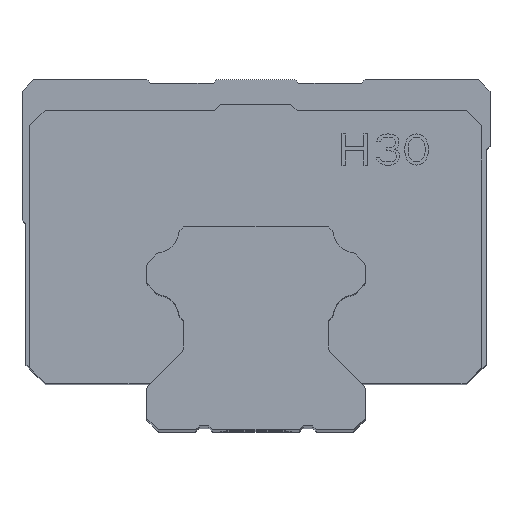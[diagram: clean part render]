
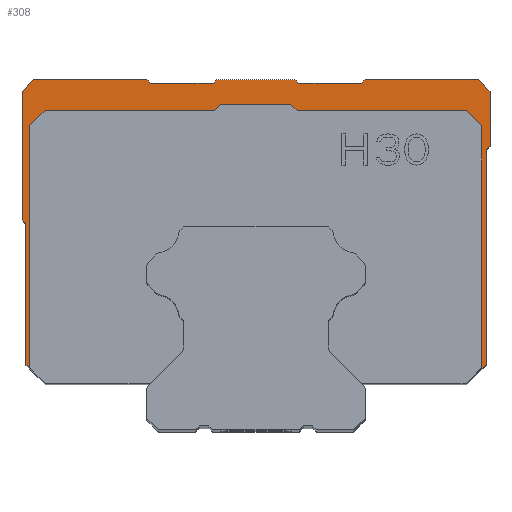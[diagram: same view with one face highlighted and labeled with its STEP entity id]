
A CAD part, top view. The second image highlights one B-rep face of the part: STEP entity #308.
In plain terms, the highlighted planar face has unit normal (0, 0, 1).
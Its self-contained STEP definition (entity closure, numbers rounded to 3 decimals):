
#308=ADVANCED_FACE('',(#776),#526,.T.);
#526=PLANE('',#5538);
#776=FACE_OUTER_BOUND('',#1053,.T.);
#1053=EDGE_LOOP('',(#3242,#3243,#3244,#3245,#3246,#3247,#3248,#3249,#3250,
#3251,#3252,#3253,#3254,#3255,#3256,#3257,#3258,#3259,#3260,#3261,#3262,
#3263,#3264,#3265,#3266,#3267,#3268,#3269,#3270,#3271));
#1496=LINE('',#7808,#2135);
#1553=LINE('',#7961,#2192);
#1557=LINE('',#7969,#2196);
#1558=LINE('',#7971,#2197);
#1559=LINE('',#7973,#2198);
#1560=LINE('',#7975,#2199);
#1561=LINE('',#7977,#2200);
#1562=LINE('',#7979,#2201);
#1563=LINE('',#7981,#2202);
#1564=LINE('',#7983,#2203);
#1565=LINE('',#7985,#2204);
#1566=LINE('',#7987,#2205);
#1567=LINE('',#7989,#2206);
#1568=LINE('',#7991,#2207);
#1569=LINE('',#7993,#2208);
#1570=LINE('',#7995,#2209);
#1571=LINE('',#7997,#2210);
#1572=LINE('',#7999,#2211);
#1573=LINE('',#8001,#2212);
#1574=LINE('',#8003,#2213);
#1575=LINE('',#8005,#2214);
#1576=LINE('',#8006,#2215);
#1577=LINE('',#8008,#2216);
#1578=LINE('',#8010,#2217);
#1579=LINE('',#8012,#2218);
#1580=LINE('',#8014,#2219);
#1581=LINE('',#8016,#2220);
#1582=LINE('',#8018,#2221);
#1583=LINE('',#8020,#2222);
#1584=LINE('',#8022,#2223);
#2135=VECTOR('',#6280,1.);
#2192=VECTOR('',#6451,1.);
#2196=VECTOR('',#6459,1.);
#2197=VECTOR('',#6462,1.);
#2198=VECTOR('',#6463,1.);
#2199=VECTOR('',#6464,1.);
#2200=VECTOR('',#6465,1.);
#2201=VECTOR('',#6466,1.);
#2202=VECTOR('',#6467,1.);
#2203=VECTOR('',#6468,1.);
#2204=VECTOR('',#6469,1.);
#2205=VECTOR('',#6470,1.);
#2206=VECTOR('',#6471,1.);
#2207=VECTOR('',#6472,1.);
#2208=VECTOR('',#6473,1.);
#2209=VECTOR('',#6474,1.);
#2210=VECTOR('',#6475,1.);
#2211=VECTOR('',#6476,1.);
#2212=VECTOR('',#6477,1.);
#2213=VECTOR('',#6478,1.);
#2214=VECTOR('',#6479,1.);
#2215=VECTOR('',#6480,1.);
#2216=VECTOR('',#6481,1.);
#2217=VECTOR('',#6482,1.);
#2218=VECTOR('',#6483,1.);
#2219=VECTOR('',#6484,1.);
#2220=VECTOR('',#6485,1.);
#2221=VECTOR('',#6486,1.);
#2222=VECTOR('',#6487,1.);
#2223=VECTOR('',#6488,1.);
#3242=ORIENTED_EDGE('',*,*,#4915,.T.);
#3243=ORIENTED_EDGE('',*,*,#4920,.T.);
#3244=ORIENTED_EDGE('',*,*,#4921,.T.);
#3245=ORIENTED_EDGE('',*,*,#4922,.T.);
#3246=ORIENTED_EDGE('',*,*,#4923,.T.);
#3247=ORIENTED_EDGE('',*,*,#4924,.T.);
#3248=ORIENTED_EDGE('',*,*,#4925,.T.);
#3249=ORIENTED_EDGE('',*,*,#4926,.T.);
#3250=ORIENTED_EDGE('',*,*,#4927,.T.);
#3251=ORIENTED_EDGE('',*,*,#4928,.T.);
#3252=ORIENTED_EDGE('',*,*,#4929,.T.);
#3253=ORIENTED_EDGE('',*,*,#4930,.T.);
#3254=ORIENTED_EDGE('',*,*,#4931,.T.);
#3255=ORIENTED_EDGE('',*,*,#4932,.T.);
#3256=ORIENTED_EDGE('',*,*,#4933,.T.);
#3257=ORIENTED_EDGE('',*,*,#4934,.T.);
#3258=ORIENTED_EDGE('',*,*,#4935,.T.);
#3259=ORIENTED_EDGE('',*,*,#4936,.T.);
#3260=ORIENTED_EDGE('',*,*,#4937,.T.);
#3261=ORIENTED_EDGE('',*,*,#4838,.T.);
#3262=ORIENTED_EDGE('',*,*,#4919,.F.);
#3263=ORIENTED_EDGE('',*,*,#4938,.F.);
#3264=ORIENTED_EDGE('',*,*,#4939,.F.);
#3265=ORIENTED_EDGE('',*,*,#4940,.F.);
#3266=ORIENTED_EDGE('',*,*,#4941,.F.);
#3267=ORIENTED_EDGE('',*,*,#4942,.F.);
#3268=ORIENTED_EDGE('',*,*,#4943,.F.);
#3269=ORIENTED_EDGE('',*,*,#4944,.F.);
#3270=ORIENTED_EDGE('',*,*,#4945,.F.);
#3271=ORIENTED_EDGE('',*,*,#4946,.F.);
#4275=VERTEX_POINT('',#7807);
#4276=VERTEX_POINT('',#7809);
#4314=VERTEX_POINT('',#7960);
#4315=VERTEX_POINT('',#7962);
#4316=VERTEX_POINT('',#7968);
#4317=VERTEX_POINT('',#7972);
#4318=VERTEX_POINT('',#7974);
#4319=VERTEX_POINT('',#7976);
#4320=VERTEX_POINT('',#7978);
#4321=VERTEX_POINT('',#7980);
#4322=VERTEX_POINT('',#7982);
#4323=VERTEX_POINT('',#7984);
#4324=VERTEX_POINT('',#7986);
#4325=VERTEX_POINT('',#7988);
#4326=VERTEX_POINT('',#7990);
#4327=VERTEX_POINT('',#7992);
#4328=VERTEX_POINT('',#7994);
#4329=VERTEX_POINT('',#7996);
#4330=VERTEX_POINT('',#7998);
#4331=VERTEX_POINT('',#8000);
#4332=VERTEX_POINT('',#8002);
#4333=VERTEX_POINT('',#8004);
#4334=VERTEX_POINT('',#8007);
#4335=VERTEX_POINT('',#8009);
#4336=VERTEX_POINT('',#8011);
#4337=VERTEX_POINT('',#8013);
#4338=VERTEX_POINT('',#8015);
#4339=VERTEX_POINT('',#8017);
#4340=VERTEX_POINT('',#8019);
#4341=VERTEX_POINT('',#8021);
#4838=EDGE_CURVE('',#4276,#4275,#1496,.T.);
#4915=EDGE_CURVE('',#4315,#4314,#1553,.T.);
#4919=EDGE_CURVE('',#4316,#4275,#1557,.T.);
#4920=EDGE_CURVE('',#4314,#4317,#1558,.T.);
#4921=EDGE_CURVE('',#4317,#4318,#1559,.T.);
#4922=EDGE_CURVE('',#4318,#4319,#1560,.T.);
#4923=EDGE_CURVE('',#4319,#4320,#1561,.T.);
#4924=EDGE_CURVE('',#4320,#4321,#1562,.T.);
#4925=EDGE_CURVE('',#4321,#4322,#1563,.T.);
#4926=EDGE_CURVE('',#4322,#4323,#1564,.T.);
#4927=EDGE_CURVE('',#4323,#4324,#1565,.T.);
#4928=EDGE_CURVE('',#4324,#4325,#1566,.T.);
#4929=EDGE_CURVE('',#4325,#4326,#1567,.T.);
#4930=EDGE_CURVE('',#4326,#4327,#1568,.T.);
#4931=EDGE_CURVE('',#4327,#4328,#1569,.T.);
#4932=EDGE_CURVE('',#4328,#4329,#1570,.T.);
#4933=EDGE_CURVE('',#4329,#4330,#1571,.T.);
#4934=EDGE_CURVE('',#4330,#4331,#1572,.T.);
#4935=EDGE_CURVE('',#4331,#4332,#1573,.T.);
#4936=EDGE_CURVE('',#4332,#4333,#1574,.T.);
#4937=EDGE_CURVE('',#4333,#4276,#1575,.T.);
#4938=EDGE_CURVE('',#4334,#4316,#1576,.T.);
#4939=EDGE_CURVE('',#4335,#4334,#1577,.T.);
#4940=EDGE_CURVE('',#4336,#4335,#1578,.T.);
#4941=EDGE_CURVE('',#4337,#4336,#1579,.T.);
#4942=EDGE_CURVE('',#4338,#4337,#1580,.T.);
#4943=EDGE_CURVE('',#4339,#4338,#1581,.T.);
#4944=EDGE_CURVE('',#4340,#4339,#1582,.T.);
#4945=EDGE_CURVE('',#4341,#4340,#1583,.T.);
#4946=EDGE_CURVE('',#4315,#4341,#1584,.T.);
#5538=AXIS2_PLACEMENT_3D('',#8023,#6489,#6490);
#6280=DIRECTION('',(0.707,-0.707,0.));
#6451=DIRECTION('',(1.,0.,0.));
#6459=DIRECTION('',(0.,-1.,0.));
#6462=DIRECTION('',(0.707,0.707,0.));
#6463=DIRECTION('',(0.,1.,0.));
#6464=DIRECTION('',(0.707,0.707,0.));
#6465=DIRECTION('',(0.,1.,0.));
#6466=DIRECTION('',(-0.707,0.707,0.));
#6467=DIRECTION('',(-1.,0.,0.));
#6468=DIRECTION('',(-0.707,-0.707,0.));
#6469=DIRECTION('',(-1.,0.,0.));
#6470=DIRECTION('',(-0.707,0.707,0.));
#6471=DIRECTION('',(-1.,0.,0.));
#6472=DIRECTION('',(-0.707,-0.707,0.));
#6473=DIRECTION('',(-1.,0.,0.));
#6474=DIRECTION('',(-0.707,0.707,0.));
#6475=DIRECTION('',(-1.,0.,0.));
#6476=DIRECTION('',(-0.707,-0.707,0.));
#6477=DIRECTION('',(0.,-1.,0.));
#6478=DIRECTION('',(0.707,-0.707,0.));
#6479=DIRECTION('',(0.,-1.,0.));
#6480=DIRECTION('',(-0.707,-0.707,0.));
#6481=DIRECTION('',(-1.,0.,0.));
#6482=DIRECTION('',(-0.707,-0.707,0.));
#6483=DIRECTION('',(-1.,0.,0.));
#6484=DIRECTION('',(-0.707,0.707,0.));
#6485=DIRECTION('',(-1.,0.,0.));
#6486=DIRECTION('',(-0.707,0.707,0.));
#6487=DIRECTION('',(0.,1.,0.));
#6488=DIRECTION('',(0.707,0.707,0.));
#6489=DIRECTION('',(0.,0.,1.));
#6490=DIRECTION('',(-1.,0.,0.));
#7807=CARTESIAN_POINT('',(-29.037,-17.962,35.));
#7808=CARTESIAN_POINT('',(-23.5,-23.5,35.));
#7809=CARTESIAN_POINT('',(-29.5,-17.5,35.));
#7960=CARTESIAN_POINT('',(27.,-20.,35.));
#7961=CARTESIAN_POINT('',(26.924,-20.,35.));
#7962=CARTESIAN_POINT('',(26.924,-20.,35.));
#7968=CARTESIAN_POINT('',(-29.037,13.039,35.));
#7969=CARTESIAN_POINT('',(-29.037,13.039,35.));
#7971=CARTESIAN_POINT('',(27.,-20.,35.));
#7972=CARTESIAN_POINT('',(29.5,-17.5,35.));
#7973=CARTESIAN_POINT('',(29.5,-17.5,35.));
#7974=CARTESIAN_POINT('',(29.5,10.,35.));
#7975=CARTESIAN_POINT('',(29.5,10.,35.));
#7976=CARTESIAN_POINT('',(30.,10.5,35.));
#7977=CARTESIAN_POINT('',(30.,10.5,35.));
#7978=CARTESIAN_POINT('',(30.,17.5,35.));
#7979=CARTESIAN_POINT('',(30.,17.5,35.));
#7980=CARTESIAN_POINT('',(28.5,19.,35.));
#7981=CARTESIAN_POINT('',(28.5,19.,35.));
#7982=CARTESIAN_POINT('',(14.,19.,35.));
#7983=CARTESIAN_POINT('',(14.,19.,35.));
#7984=CARTESIAN_POINT('',(13.5,18.5,35.));
#7985=CARTESIAN_POINT('',(13.5,18.5,35.));
#7986=CARTESIAN_POINT('',(5.5,18.5,35.));
#7987=CARTESIAN_POINT('',(5.5,18.5,35.));
#7988=CARTESIAN_POINT('',(5.,19.,35.));
#7989=CARTESIAN_POINT('',(5.,19.,35.));
#7990=CARTESIAN_POINT('',(-5.,19.,35.));
#7991=CARTESIAN_POINT('',(-5.,19.,35.));
#7992=CARTESIAN_POINT('',(-5.5,18.5,35.));
#7993=CARTESIAN_POINT('',(-5.5,18.5,35.));
#7994=CARTESIAN_POINT('',(-13.5,18.5,35.));
#7995=CARTESIAN_POINT('',(-13.5,18.5,35.));
#7996=CARTESIAN_POINT('',(-14.,19.,35.));
#7997=CARTESIAN_POINT('',(-14.,19.,35.));
#7998=CARTESIAN_POINT('',(-28.5,19.,35.));
#7999=CARTESIAN_POINT('',(-28.5,19.,35.));
#8000=CARTESIAN_POINT('',(-30.,17.5,35.));
#8001=CARTESIAN_POINT('',(-30.,17.5,35.));
#8002=CARTESIAN_POINT('',(-30.,1.,35.));
#8003=CARTESIAN_POINT('',(-30.,1.,35.));
#8004=CARTESIAN_POINT('',(-29.5,0.5,35.));
#8005=CARTESIAN_POINT('',(-29.5,0.5,35.));
#8006=CARTESIAN_POINT('',(-27.037,15.039,35.));
#8007=CARTESIAN_POINT('',(-27.037,15.039,35.));
#8008=CARTESIAN_POINT('',(-5.337,15.039,35.));
#8009=CARTESIAN_POINT('',(-5.337,15.039,35.));
#8010=CARTESIAN_POINT('',(-4.537,15.839,35.));
#8011=CARTESIAN_POINT('',(-4.537,15.839,35.));
#8012=CARTESIAN_POINT('',(4.463,15.839,35.));
#8013=CARTESIAN_POINT('',(4.463,15.839,35.));
#8014=CARTESIAN_POINT('',(5.263,15.039,35.));
#8015=CARTESIAN_POINT('',(5.263,15.039,35.));
#8016=CARTESIAN_POINT('',(26.963,15.039,35.));
#8017=CARTESIAN_POINT('',(26.963,15.039,35.));
#8018=CARTESIAN_POINT('',(28.963,13.039,35.));
#8019=CARTESIAN_POINT('',(28.963,13.039,35.));
#8020=CARTESIAN_POINT('',(28.963,-17.961,35.));
#8021=CARTESIAN_POINT('',(28.963,-17.961,35.));
#8022=CARTESIAN_POINT('',(26.924,-20.,35.));
#8023=CARTESIAN_POINT('',(0.,0.,35.));
